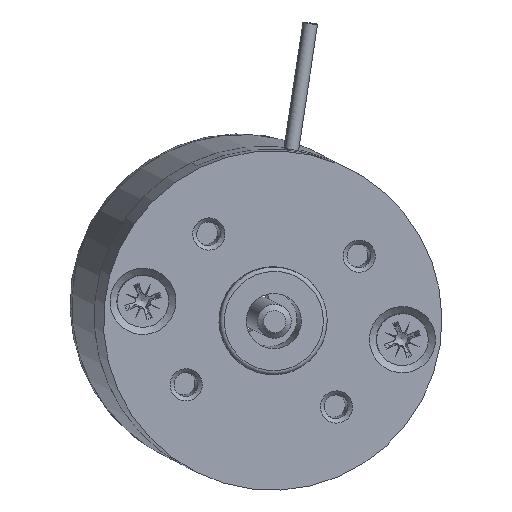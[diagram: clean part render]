
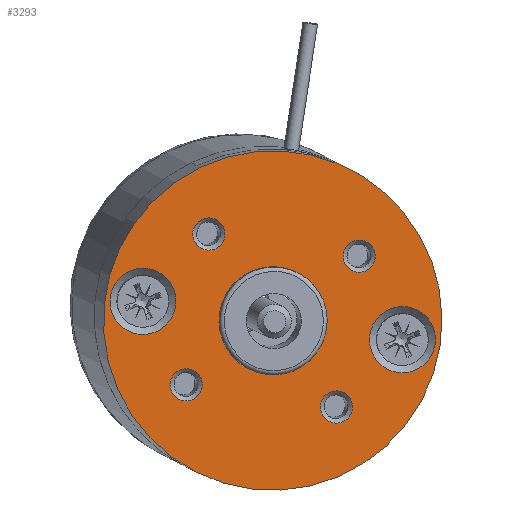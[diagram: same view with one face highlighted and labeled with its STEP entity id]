
A CAD part, top view. The second image highlights one B-rep face of the part: STEP entity #3293.
In plain terms, the highlighted planar face has unit normal (0.085, -0.045, 0.995) as drawn and (0, 0, 1) by its records, which use the part's own axes.
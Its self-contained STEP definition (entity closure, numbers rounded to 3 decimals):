
#3105=CARTESIAN_POINT('',(-19.4,0.,12.6));
#3106=VERTEX_POINT('',#3105);
#3107=CARTESIAN_POINT('',(-15.5,0.,12.6));
#3108=DIRECTION('',(0.0,0.0,-1.0));
#3109=DIRECTION('',(-1.0,0.0,0.0));
#3110=AXIS2_PLACEMENT_3D('',#3107,#3108,#3109);
#3111=CIRCLE('',#3110,3.9);
#3112=EDGE_CURVE('',#3106,#3106,#3111,.T.);
#3153=CARTESIAN_POINT('',(19.4,0.0,12.6));
#3154=VERTEX_POINT('',#3153);
#3155=CARTESIAN_POINT('',(15.5,0.0,12.6));
#3156=DIRECTION('',(0.0,0.0,-1.0));
#3157=DIRECTION('',(1.0,0.0,0.0));
#3158=AXIS2_PLACEMENT_3D('',#3155,#3156,#3157);
#3159=CIRCLE('',#3158,3.9);
#3160=EDGE_CURVE('',#3154,#3154,#3159,.T.);
#3212=CARTESIAN_POINT('',(-8.98,10.88,12.6));
#3213=VERTEX_POINT('',#3212);
#3214=CARTESIAN_POINT('',(-8.98,8.98,12.6));
#3215=DIRECTION('',(0.0,0.0,1.0));
#3216=DIRECTION('',(0.0,-1.0,0.0));
#3217=AXIS2_PLACEMENT_3D('',#3214,#3215,#3216);
#3218=CIRCLE('',#3217,1.9);
#3219=EDGE_CURVE('',#3213,#3213,#3218,.T.);
#3224=CARTESIAN_POINT('',(0.0,0.0,12.6));
#3225=DIRECTION('',(0.0,0.0,-1.0));
#3226=DIRECTION('',(-1.0,0.0,0.0));
#3227=AXIS2_PLACEMENT_3D('',#3224,#3225,#3226);
#3228=PLANE('',#3227);
#3229=CARTESIAN_POINT('',(20.0,0.,12.6));
#3230=VERTEX_POINT('',#3229);
#3231=CARTESIAN_POINT('',(0.0,0.0,12.6));
#3232=DIRECTION('',(0.0,0.0,-1.0));
#3233=DIRECTION('',(-1.0,0.0,0.0));
#3234=AXIS2_PLACEMENT_3D('',#3231,#3232,#3233);
#3235=CIRCLE('',#3234,20.0);
#3236=EDGE_CURVE('',#3230,#3230,#3235,.T.);
#3237=ORIENTED_EDGE('',*,*,#3236,.F.);
#3238=EDGE_LOOP('',(#3237));
#3239=FACE_OUTER_BOUND('',#3238,.T.);
#3240=ORIENTED_EDGE('',*,*,#3112,.T.);
#3241=EDGE_LOOP('',(#3240));
#3242=FACE_BOUND('',#3241,.T.);
#3243=ORIENTED_EDGE('',*,*,#3160,.T.);
#3244=EDGE_LOOP('',(#3243));
#3245=FACE_BOUND('',#3244,.T.);
#3246=CARTESIAN_POINT('',(-10.88,-8.98,12.6));
#3247=VERTEX_POINT('',#3246);
#3248=CARTESIAN_POINT('',(-8.98,-8.98,12.6));
#3249=DIRECTION('',(0.0,0.0,1.0));
#3250=DIRECTION('',(1.0,0.0,0.0));
#3251=AXIS2_PLACEMENT_3D('',#3248,#3249,#3250);
#3252=CIRCLE('',#3251,1.9);
#3253=EDGE_CURVE('',#3247,#3247,#3252,.T.);
#3254=ORIENTED_EDGE('',*,*,#3253,.F.);
#3255=EDGE_LOOP('',(#3254));
#3256=FACE_BOUND('',#3255,.T.);
#3257=CARTESIAN_POINT('',(10.88,8.98,12.6));
#3258=VERTEX_POINT('',#3257);
#3259=CARTESIAN_POINT('',(8.98,8.98,12.6));
#3260=DIRECTION('',(0.0,0.0,1.0));
#3261=DIRECTION('',(-1.0,0.0,0.0));
#3262=AXIS2_PLACEMENT_3D('',#3259,#3260,#3261);
#3263=CIRCLE('',#3262,1.9);
#3264=EDGE_CURVE('',#3258,#3258,#3263,.T.);
#3265=ORIENTED_EDGE('',*,*,#3264,.F.);
#3266=EDGE_LOOP('',(#3265));
#3267=FACE_BOUND('',#3266,.T.);
#3268=CARTESIAN_POINT('',(6.35,0.,12.6));
#3269=VERTEX_POINT('',#3268);
#3270=CARTESIAN_POINT('',(0.0,0.0,12.6));
#3271=DIRECTION('',(0.0,0.0,-1.0));
#3272=DIRECTION('',(-1.0,0.0,0.0));
#3273=AXIS2_PLACEMENT_3D('',#3270,#3271,#3272);
#3274=CIRCLE('',#3273,6.35);
#3275=EDGE_CURVE('',#3269,#3269,#3274,.T.);
#3276=ORIENTED_EDGE('',*,*,#3275,.T.);
#3277=EDGE_LOOP('',(#3276));
#3278=FACE_BOUND('',#3277,.T.);
#3279=CARTESIAN_POINT('',(8.98,-10.88,12.6));
#3280=VERTEX_POINT('',#3279);
#3281=CARTESIAN_POINT('',(8.98,-8.98,12.6));
#3282=DIRECTION('',(0.0,0.0,1.0));
#3283=DIRECTION('',(0.0,1.0,0.0));
#3284=AXIS2_PLACEMENT_3D('',#3281,#3282,#3283);
#3285=CIRCLE('',#3284,1.9);
#3286=EDGE_CURVE('',#3280,#3280,#3285,.T.);
#3287=ORIENTED_EDGE('',*,*,#3286,.F.);
#3288=EDGE_LOOP('',(#3287));
#3289=FACE_BOUND('',#3288,.T.);
#3290=ORIENTED_EDGE('',*,*,#3219,.F.);
#3291=EDGE_LOOP('',(#3290));
#3292=FACE_BOUND('',#3291,.T.);
#3293=ADVANCED_FACE('',(#3239,#3242,#3245,#3256,#3267,#3278,#3289,#3292),#3228,.F.);
